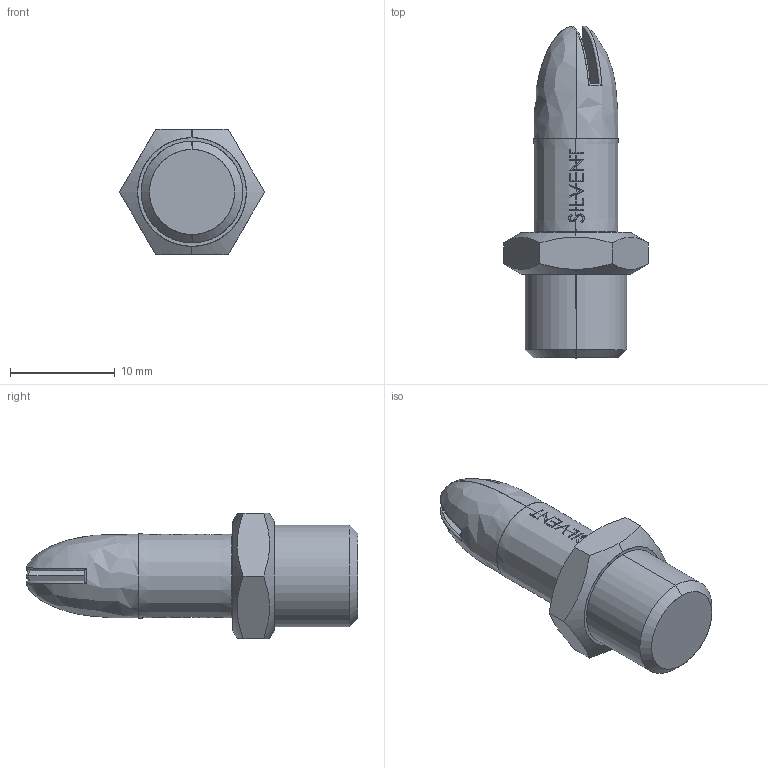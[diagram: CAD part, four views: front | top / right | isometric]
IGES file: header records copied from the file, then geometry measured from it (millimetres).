
Start section: SolidWorks IGES file using analytic representation for surfaces
Global section: file name: G:\Silvent\Ritningar\Övrigt\IGES\Silvent 811.IGS; native system: SolidWorks 2006 by SolidWorks Corporation; preprocessor: SolidWorks 2006 by SolidWorks Corporation; author: SilvRaTi; date: 070109.080930; units: millimetre
Bounding box: 13.86 x 31.73 x 12 mm (x, y, z)
Surface area: 1098.1 mm2 (no closed solid volume)
Topology: 0 solids, 0 shells, 203 faces, 2102 edges, 2102 vertices
Faces by surface type: bspline 184, revolution 19
